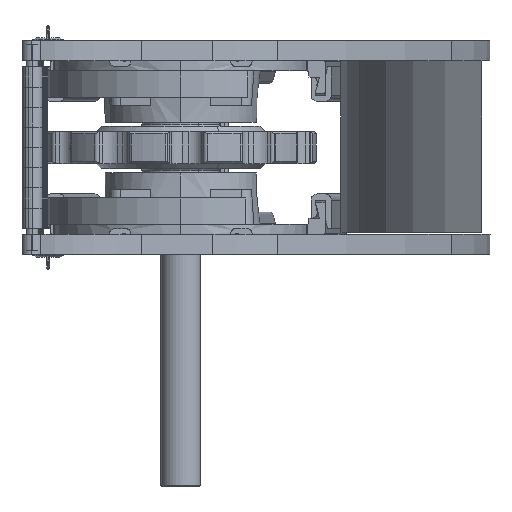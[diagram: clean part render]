
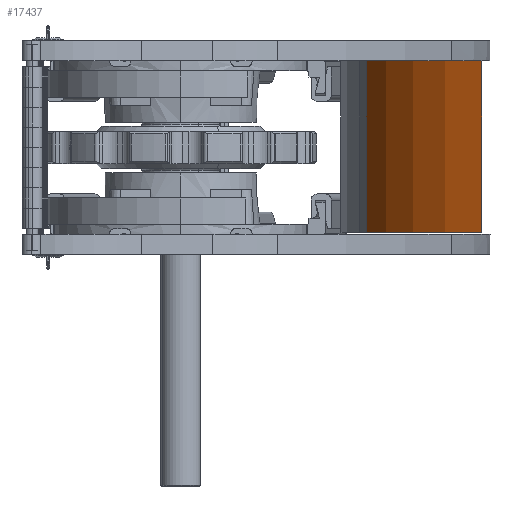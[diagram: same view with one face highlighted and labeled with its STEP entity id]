
A CAD part, left-side view. The second image highlights one B-rep face of the part: STEP entity #17437.
In plain terms, the highlighted cylindrical face has radius 126 mm (diameter 252 mm), a partial arc.
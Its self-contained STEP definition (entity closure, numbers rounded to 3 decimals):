
#1392 = CARTESIAN_POINT ( 'NONE',  ( -4.5, 29., -42.5 ) ) ;
#1410 = CIRCLE ( 'NONE', #1429, 126. ) ;
#1412 = AXIS2_PLACEMENT_3D ( 'NONE', #1518, #1511, #1509 ) ;
#1414 = CARTESIAN_POINT ( 'NONE',  ( -4.5, 29., 42.5 ) ) ;
#1416 = DIRECTION ( 'NONE',  ( 0., 0., -1. ) ) ;
#1417 = VECTOR ( 'NONE', #1416, 1000. ) ;
#1421 = DIRECTION ( 'NONE',  ( -1., 0., 0. ) ) ;
#1423 = CIRCLE ( 'NONE', #1412, 126. ) ;
#1429 = AXIS2_PLACEMENT_3D ( 'NONE', #1521, #1520, #1519 ) ;
#1431 = AXIS2_PLACEMENT_3D ( 'NONE', #1439, #1448, #1421 ) ;
#1432 = CARTESIAN_POINT ( 'NONE',  ( -85.5, 0., 42.5 ) ) ;
#1434 = LINE ( 'NONE', #1432, #1417 ) ;
#1439 = CARTESIAN_POINT ( 'NONE',  ( -5.081, -96.999, 42.5 ) ) ;
#1446 = FACE_OUTER_BOUND ( 'NONE', #17509, .T. ) ;
#1448 = DIRECTION ( 'NONE',  ( 0., 0., -1. ) ) ;
#1454 = CYLINDRICAL_SURFACE ( 'NONE', #1431, 126. ) ;
#1509 = DIRECTION ( 'NONE',  ( 1., 0., 0. ) ) ;
#1511 = DIRECTION ( 'NONE',  ( 0., 0., 1. ) ) ;
#1518 = CARTESIAN_POINT ( 'NONE',  ( -5.081, -96.999, 42.5 ) ) ;
#1519 = DIRECTION ( 'NONE',  ( 1., 0., 0. ) ) ;
#1520 = DIRECTION ( 'NONE',  ( 0., 0., 1. ) ) ;
#1521 = CARTESIAN_POINT ( 'NONE',  ( -5.081, -96.999, -42.5 ) ) ;
#1771 = CARTESIAN_POINT ( 'NONE',  ( -85.5, 0., 42.5 ) ) ;
#1807 = CARTESIAN_POINT ( 'NONE',  ( -85.5, 0., -42.5 ) ) ;
#1826 = DIRECTION ( 'NONE',  ( 0., 0., -1. ) ) ;
#1827 = VECTOR ( 'NONE', #1826, 1000. ) ;
#1828 = CARTESIAN_POINT ( 'NONE',  ( -4.5, 29., 42.5 ) ) ;
#1830 = LINE ( 'NONE', #1828, #1827 ) ;
#17429 = VERTEX_POINT ( 'NONE', #1392 ) ;
#17437 = ADVANCED_FACE ( 'NONE', ( #1446 ), #1454, .T. ) ;
#17438 = ORIENTED_EDGE ( 'NONE', *, *, #17441, .F. ) ;
#17439 = ORIENTED_EDGE ( 'NONE', *, *, #17443, .T. ) ;
#17441 = EDGE_CURVE ( 'NONE', #17484, #17507, #1434, .T. ) ;
#17443 = EDGE_CURVE ( 'NONE', #17429, #17507, #1410, .T. ) ;
#17445 = EDGE_CURVE ( 'NONE', #17447, #17484, #1423, .T. ) ;
#17446 = ORIENTED_EDGE ( 'NONE', *, *, #17445, .F. ) ;
#17447 = VERTEX_POINT ( 'NONE', #1414 ) ;
#17484 = VERTEX_POINT ( 'NONE', #1771 ) ;
#17490 = EDGE_CURVE ( 'NONE', #17447, #17429, #1830, .T. ) ;
#17506 = ORIENTED_EDGE ( 'NONE', *, *, #17490, .T. ) ;
#17507 = VERTEX_POINT ( 'NONE', #1807 ) ;
#17509 = EDGE_LOOP ( 'NONE', ( #17439, #17438, #17446, #17506 ) ) ;
